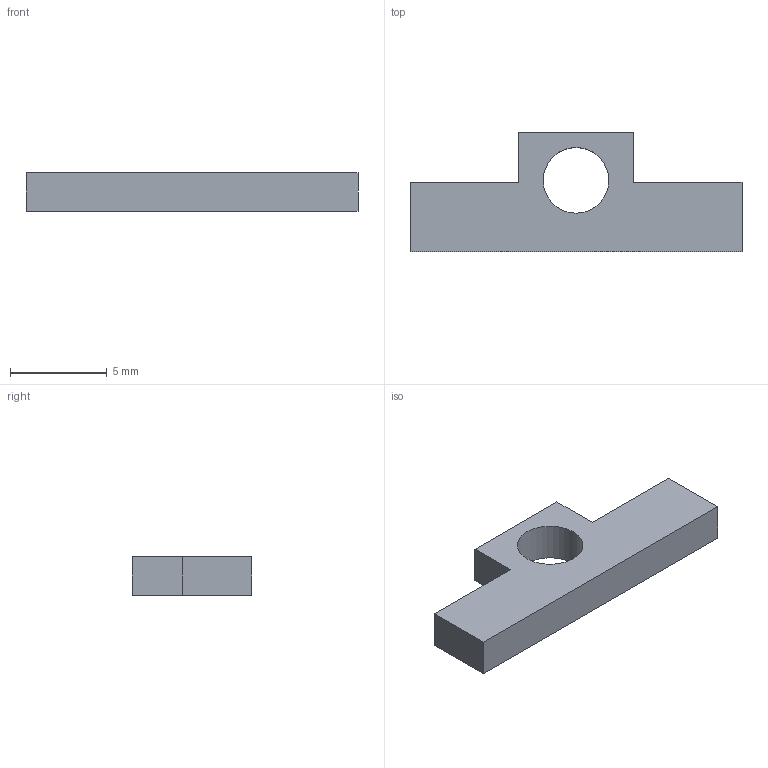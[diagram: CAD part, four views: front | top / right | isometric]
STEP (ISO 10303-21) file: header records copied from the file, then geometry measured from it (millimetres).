
FILE_DESCRIPTION(('Open CASCADE Model'),'2;1');
FILE_NAME('Open CASCADE Shape Model','2026-10-05T13:24:20',('Author'),( 'Open CASCADE'),'Open CASCADE STEP processor 7.8','Open CASCADE 7.8' ,'Unknown');
FILE_SCHEMA(('AUTOMOTIVE_DESIGN { 1 0 10303 214 1 1 1 1 }'));
Length unit declared in the file: millimetre
Products named in the file (1): Open CASCADE STEP translator 7.8 18
Bounding box: 17.2 x 6.2 x 2 mm (x, y, z)
Volume: 136.9 mm3; surface area: 251.8 mm2
Topology: 1 solids, 1 shells, 11 faces, 27 edges, 18 vertices
Faces by surface type: plane 10, cylinder 1
Full cylindrical faces by diameter (mm): 3.4 x1
Entity records: 690 total; most frequent: CARTESIAN_POINT 127, DIRECTION 101, LINE 73, VECTOR 73, ORIENTED_EDGE 54, PCURVE 54, DEFINITIONAL_REPRESENTATION 54, EDGE_CURVE 27
